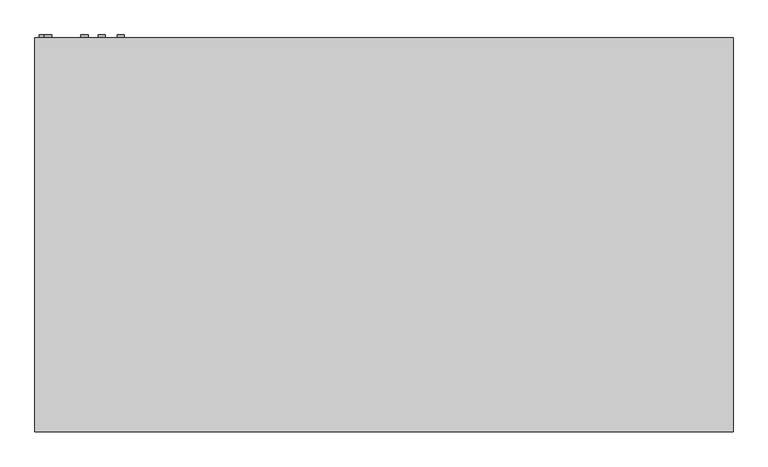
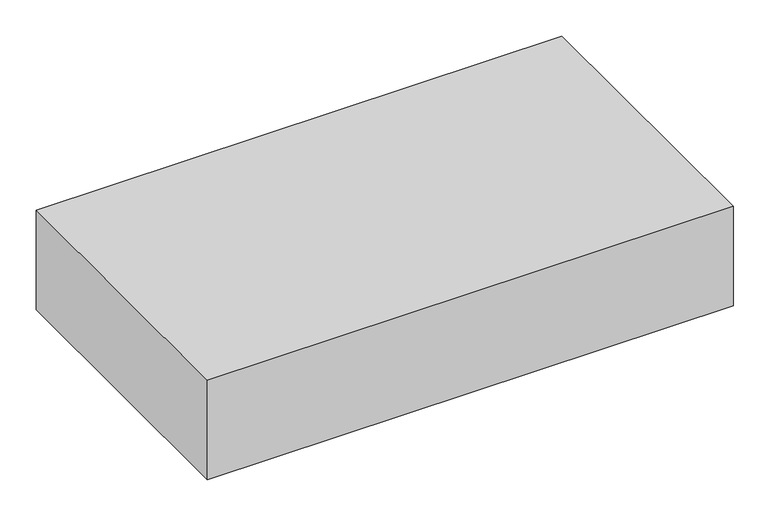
"""IFC4 building model written with IfcOpenShell, lengths in millimetres: proxy geometry, Exposed_Horizontal_Fan_Coil_Unit_-_42CGB_-_CARRIER_-_4-Pipe_BS-BR_LH_2022 : Size 08 - 277v/60Hz/1Ph - 4/1 Coil."""

from ifc_helpers import new_model, si_unit, point, frame, frame_2d, origin, place, context, project, spatial, polyline, circle_curve, trimmed, segment, composite_curve, outline, extrude, source, transform, mapped, element, save


def mechanical_equipment_68a452e6(model_context):
    return source(origin(), model_context, "Body", "SweptSolid", [
        extrude(outline(polyline([(647.7, -439.7375), (647.7, -611.1875), (-342.9, -611.1875), (-342.9, -439.7375), (647.7, -439.7375)])), frame((0.0, 0.0, -311.15), z_axis=(0.0, 0.0, 1.0), x_axis=(1.0, 0.0, 0.0)), (0.0, 0.0, 1.0), 6.35),
        extrude(outline(composite_curve([segment(trimmed(circle_curve(frame_2d((-261.434158, -590.7546393)), 9.525), [point((-261.434158, -581.2296393))], [point((-261.434158, -600.2796393))], False, "CARTESIAN"), True, "CONTINUOUS"), segment(trimmed(circle_curve(frame_2d((-261.434158, -590.7546393)), 9.525), [point((-261.434158, -600.2796393))], [point((-261.434158, -581.2296393))], False, "CARTESIAN"), True, "CONTINUOUS")], self_intersect=False)), frame((0.0, 192.0875, 0.0), z_axis=(0.0, 1.0, 0.0), x_axis=(0.0, 0.0, 1.0)), (0.0, 0.0, 1.0), 6.35),
        extrude(outline(composite_curve([segment(trimmed(circle_curve(frame_2d((-85.725, -581.025)), 7.9375), [point((-85.725, -573.0875))], [point((-85.725, -588.9625))], False, "CARTESIAN"), True, "CONTINUOUS"), segment(trimmed(circle_curve(frame_2d((-85.725, -581.025)), 7.9375), [point((-85.725, -588.9625))], [point((-85.725, -573.0875))], False, "CARTESIAN"), True, "CONTINUOUS")], self_intersect=False)), frame((0.0, 192.0875, 0.0), z_axis=(0.0, 1.0, 0.0), x_axis=(0.0, 0.0, 1.0)), (0.0, 0.0, 1.0), 6.35),
        extrude(outline(composite_curve([segment(trimmed(circle_curve(frame_2d((-44.45, -501.65)), 7.9375), [point((-44.45, -493.7125))], [point((-44.45, -509.5875))], False, "CARTESIAN"), True, "CONTINUOUS"), segment(trimmed(circle_curve(frame_2d((-44.45, -501.65)), 7.9375), [point((-44.45, -509.5875))], [point((-44.45, -493.7125))], False, "CARTESIAN"), True, "CONTINUOUS")], self_intersect=False)), frame((0.0, 192.0875, 0.0), z_axis=(0.0, 1.0, 0.0), x_axis=(0.0, 0.0, 1.0)), (0.0, 0.0, 1.0), 6.35),
        extrude(outline(composite_curve([segment(trimmed(circle_curve(frame_2d((-95.25, -463.55)), 7.9375), [point((-95.25, -455.6125))], [point((-95.25, -471.4875))], False, "CARTESIAN"), True, "CONTINUOUS"), segment(trimmed(circle_curve(frame_2d((-95.25, -463.55)), 7.9375), [point((-95.25, -471.4875))], [point((-95.25, -455.6125))], False, "CARTESIAN"), True, "CONTINUOUS")], self_intersect=False)), frame((0.0, 192.0875, 0.0), z_axis=(0.0, 1.0, 0.0), x_axis=(0.0, 0.0, 1.0)), (0.0, 0.0, 1.0), 6.35),
        extrude(outline(composite_curve([segment(trimmed(circle_curve(frame_2d((-60.325, -422.275)), 7.9375), [point((-60.325, -414.3375))], [point((-60.325, -430.2125))], False, "CARTESIAN"), True, "CONTINUOUS"), segment(trimmed(circle_curve(frame_2d((-60.325, -422.275)), 7.9375), [point((-60.325, -430.2125))], [point((-60.325, -414.3375))], False, "CARTESIAN"), True, "CONTINUOUS")], self_intersect=False)), frame((0.0, 192.0875, 0.0), z_axis=(0.0, 1.0, 0.0), x_axis=(0.0, 0.0, 1.0)), (0.0, 0.0, 1.0), 6.35),
        extrude(outline(polyline([(-609.6, 192.0875), (914.4, 192.0875), (914.4, -668.3375), (-609.6, -668.3375), (-609.6, 192.0875)])), frame((0.0, 0.0, -304.8), z_axis=(0.0, 0.0, 1.0), x_axis=(1.0, 0.0, 0.0)), (0.0, 0.0, 1.0), 304.8),
        extrude(outline(polyline([(673.1, 115.8875), (673.1, -138.1125), (-368.3, -138.1125), (-368.3, 115.8875), (673.1, 115.8875)])), frame((0.0, 0.0, -311.15), z_axis=(0.0, 0.0, 1.0), x_axis=(1.0, 0.0, 0.0)), (0.0, 0.0, 1.0), 6.35),
    ])


if __name__ == "__main__":
    model = new_model("IFC4")
    model_context = context("Model", 3, world=origin())
    ifc_project = project(units=[si_unit("LENGTHUNIT", "METRE", prefix="MILLI")], contexts=[model_context])
    site = spatial("IfcSite", under=ifc_project)
    building = spatial("IfcBuilding", under=site)
    placement = place(None, origin())
    mechanical_equipment_shape = mechanical_equipment_68a452e6(model_context)
    element("IfcBuildingElementProxy", 1, Name="Exposed_Horizontal_Fan_Coil_Unit_-_42CGB_-_CARRIER_-_4-Pipe_BS-BR_LH_2022 : Size 08 - 277v/60Hz/1Ph - 4/1 Coil", ObjectType="Exposed_Horizontal_Fan_Coil_Unit_-_42CGB_-_CARRIER_-_4-Pipe_BS-BR_LH_2022 : Size 08 - 277v/60Hz/1Ph - 4/1 Coil", at=placement, inside=building, context=model_context, shape_type="MappedRepresentation", body=[
        mapped(mechanical_equipment_shape, transform((0.0, 0.0, 0.0), x_axis=(1.0, 0.0, 0.0), y_axis=(0.0, 1.0, 0.0), z_axis=(0.0, 0.0, 1.0))),
    ])
    save(model, "model.ifc")
